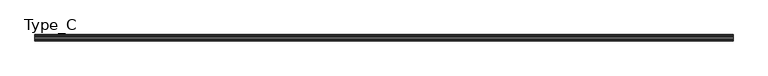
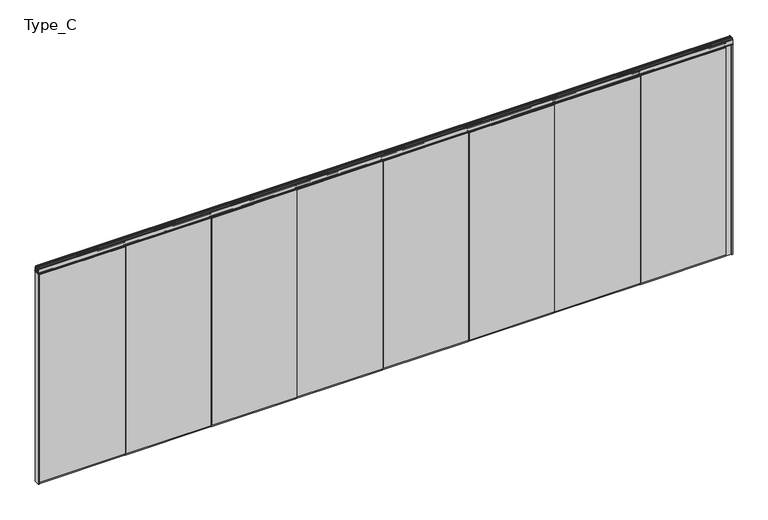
"""IFC4 building model written with IfcOpenShell, lengths in millimetres: proxy geometry, Planner Wall フラッシュパネル(NO Door) : Type_C."""

from ifc_helpers import new_model, si_unit, point, frame, frame_2d, origin, origin_with_axes, place, context, project, spatial, polyline, circle_curve, trimmed, segment, composite_curve, outline, extrude, source, transform, mapped, element, save


def type_c_7cec8b19(model_context):
    return source(origin(), model_context, "Body", "SweptSolid", [
        extrude(outline(polyline([(-2075.875, 25.0), (-3223.5, 25.0), (-3223.5, 35.0), (-2075.875, 35.0), (-2075.875, 25.0)])), frame((0.0, 0.0, 25.0), z_axis=(0.0, 0.0, 1.0), x_axis=(1.0, 0.0, 0.0)), (0.0, 0.0, 1.0), 2950.0),
        extrude(outline(polyline([(-2075.875, -35.0), (-3223.5, -35.0), (-3223.5, -25.0), (-2075.875, -25.0), (-2075.875, -35.0)])), frame((0.0, 0.0, 25.0), z_axis=(0.0, 0.0, 1.0), x_axis=(1.0, 0.0, 0.0)), (0.0, 0.0, 1.0), 2950.0),
        extrude(outline(polyline([(-3223.5, -25.0), (-3223.5, 25.0), (-2081.375, 25.0), (-2081.375, -25.0), (-3223.5, -25.0)])), origin_with_axes(), (0.0, 0.0, 1.0), 65.0),
        extrude(outline(composite_curve([segment(polyline([(23.5, 3050.1000003), (26.5, 3047.1000003), (26.5, 3032.6)]), True, "CONTINUOUS"), segment(trimmed(circle_curve(frame_2d((25.0, 3032.6)), 1.5), [point((26.5, 3032.6))], [point((25.0, 3031.1))], False, "CARTESIAN"), True, "CONTINUOUS"), segment(polyline([(25.0, 3031.1), (9.0, 3031.1), (9.0, 3019.1000003), (23.5, 3019.1000003), (26.5, 3016.1000003), (26.5, 3001.5)]), True, "CONTINUOUS"), segment(trimmed(circle_curve(frame_2d((25.0, 3001.5)), 1.5), [point((26.5, 3001.5))], [point((25.0, 3000.0))], False, "CARTESIAN"), True, "CONTINUOUS"), segment(polyline([(25.0, 3000.0), (7.5, 3000.0), (7.5, 2994.5), (25.0, 2994.5), (25.0, 2935.0), (-25.0, 2935.0), (-25.0, 2994.5), (-7.5, 2994.5), (-7.5, 3000.0), (-25.0, 3000.0)]), True, "CONTINUOUS"), segment(trimmed(circle_curve(frame_2d((-25.0, 3001.5)), 1.5), [point((-25.0, 3000.0))], [point((-26.5, 3001.5))], False, "CARTESIAN"), True, "CONTINUOUS"), segment(polyline([(-26.5, 3001.5), (-26.5, 3016.1000003), (-23.5, 3019.1000003), (-9.0, 3019.1000003), (-9.0, 3031.1), (-25.0, 3031.1)]), True, "CONTINUOUS"), segment(trimmed(circle_curve(frame_2d((-25.0, 3032.6)), 1.5), [point((-25.0, 3031.1))], [point((-26.5, 3032.6))], False, "CARTESIAN"), True, "CONTINUOUS"), segment(polyline([(-26.5, 3032.6), (-26.5, 3047.1000003), (-23.5, 3050.1000003), (23.5, 3050.1000003)]), True, "CONTINUOUS")], self_intersect=False)), frame((-3223.5, 0.0, 0.0), z_axis=(1.0, 0.0, 0.0), x_axis=(0.0, 1.0, 0.0)), (0.0, 0.0, 1.0), 1147.625),
        extrude(outline(polyline([(-3237.0, -25.0), (-3237.0, 25.0), (-3223.5, 25.0), (-3223.5, -25.0), (-3237.0, -25.0)])), frame((0.0, 0.0, 53.0), z_axis=(0.0, 0.0, 1.0), x_axis=(1.0, 0.0, 0.0)), (0.0, 0.0, 1.0), 2869.0),
        extrude(outline(polyline([(-920.25, 25.0), (-2067.875, 25.0), (-2067.875, 35.0), (-920.25, 35.0), (-920.25, 25.0)])), frame((0.0, 0.0, 25.0), z_axis=(0.0, 0.0, 1.0), x_axis=(1.0, 0.0, 0.0)), (0.0, 0.0, 1.0), 2950.0),
        extrude(outline(polyline([(-920.25, -35.0), (-2067.875, -35.0), (-2067.875, -25.0), (-920.25, -25.0), (-920.25, -35.0)])), frame((0.0, 0.0, 25.0), z_axis=(0.0, 0.0, 1.0), x_axis=(1.0, 0.0, 0.0)), (0.0, 0.0, 1.0), 2950.0),
        extrude(outline(polyline([(-2067.875, -25.0), (-2067.875, 25.0), (-925.75, 25.0), (-925.75, -25.0), (-2067.875, -25.0)])), origin_with_axes(), (0.0, 0.0, 1.0), 65.0),
        extrude(outline(composite_curve([segment(polyline([(23.5, 3050.1000003), (26.5, 3047.1000003), (26.5, 3032.6)]), True, "CONTINUOUS"), segment(trimmed(circle_curve(frame_2d((25.0, 3032.6)), 1.5), [point((26.5, 3032.6))], [point((25.0, 3031.1))], False, "CARTESIAN"), True, "CONTINUOUS"), segment(polyline([(25.0, 3031.1), (9.0, 3031.1), (9.0, 3019.1000003), (23.5, 3019.1000003), (26.5, 3016.1000003), (26.5, 3001.5)]), True, "CONTINUOUS"), segment(trimmed(circle_curve(frame_2d((25.0, 3001.5)), 1.5), [point((26.5, 3001.5))], [point((25.0, 3000.0))], False, "CARTESIAN"), True, "CONTINUOUS"), segment(polyline([(25.0, 3000.0), (7.5, 3000.0), (7.5, 2994.5), (25.0, 2994.5), (25.0, 2935.0), (-25.0, 2935.0), (-25.0, 2994.5), (-7.5, 2994.5), (-7.5, 3000.0), (-25.0, 3000.0)]), True, "CONTINUOUS"), segment(trimmed(circle_curve(frame_2d((-25.0, 3001.5)), 1.5), [point((-25.0, 3000.0))], [point((-26.5, 3001.5))], False, "CARTESIAN"), True, "CONTINUOUS"), segment(polyline([(-26.5, 3001.5), (-26.5, 3016.1000003), (-23.5, 3019.1000003), (-9.0, 3019.1000003), (-9.0, 3031.1), (-25.0, 3031.1)]), True, "CONTINUOUS"), segment(trimmed(circle_curve(frame_2d((-25.0, 3032.6)), 1.5), [point((-25.0, 3031.1))], [point((-26.5, 3032.6))], False, "CARTESIAN"), True, "CONTINUOUS"), segment(polyline([(-26.5, 3032.6), (-26.5, 3047.1000003), (-23.5, 3050.1000003), (23.5, 3050.1000003)]), True, "CONTINUOUS")], self_intersect=False)), frame((-2067.875, 0.0, 0.0), z_axis=(1.0, 0.0, 0.0), x_axis=(0.0, 1.0, 0.0)), (0.0, 0.0, 1.0), 1147.625),
        extrude(outline(polyline([(-2081.375, -25.0), (-2081.375, 25.0), (-2067.875, 25.0), (-2067.875, -25.0), (-2081.375, -25.0)])), frame((0.0, 0.0, 53.0), z_axis=(0.0, 0.0, 1.0), x_axis=(1.0, 0.0, 0.0)), (0.0, 0.0, 1.0), 2869.0),
        extrude(outline(polyline([(235.375, 25.0), (-912.25, 25.0), (-912.25, 35.0), (235.375, 35.0), (235.375, 25.0)])), frame((0.0, 0.0, 25.0), z_axis=(0.0, 0.0, 1.0), x_axis=(1.0, 0.0, 0.0)), (0.0, 0.0, 1.0), 2950.0),
        extrude(outline(polyline([(235.375, -35.0), (-912.25, -35.0), (-912.25, -25.0), (235.375, -25.0), (235.375, -35.0)])), frame((0.0, 0.0, 25.0), z_axis=(0.0, 0.0, 1.0), x_axis=(1.0, 0.0, 0.0)), (0.0, 0.0, 1.0), 2950.0),
        extrude(outline(polyline([(-912.25, -25.0), (-912.25, 25.0), (229.875, 25.0), (229.875, -25.0), (-912.25, -25.0)])), origin_with_axes(), (0.0, 0.0, 1.0), 65.0),
        extrude(outline(composite_curve([segment(polyline([(23.5, 3050.1000003), (26.5, 3047.1000003), (26.5, 3032.6)]), True, "CONTINUOUS"), segment(trimmed(circle_curve(frame_2d((25.0, 3032.6)), 1.5), [point((26.5, 3032.6))], [point((25.0, 3031.1))], False, "CARTESIAN"), True, "CONTINUOUS"), segment(polyline([(25.0, 3031.1), (9.0, 3031.1), (9.0, 3019.1000003), (23.5, 3019.1000003), (26.5, 3016.1000003), (26.5, 3001.5)]), True, "CONTINUOUS"), segment(trimmed(circle_curve(frame_2d((25.0, 3001.5)), 1.5), [point((26.5, 3001.5))], [point((25.0, 3000.0))], False, "CARTESIAN"), True, "CONTINUOUS"), segment(polyline([(25.0, 3000.0), (7.5, 3000.0), (7.5, 2994.5), (25.0, 2994.5), (25.0, 2935.0), (-25.0, 2935.0), (-25.0, 2994.5), (-7.5, 2994.5), (-7.5, 3000.0), (-25.0, 3000.0)]), True, "CONTINUOUS"), segment(trimmed(circle_curve(frame_2d((-25.0, 3001.5)), 1.5), [point((-25.0, 3000.0))], [point((-26.5, 3001.5))], False, "CARTESIAN"), True, "CONTINUOUS"), segment(polyline([(-26.5, 3001.5), (-26.5, 3016.1000003), (-23.5, 3019.1000003), (-9.0, 3019.1000003), (-9.0, 3031.1), (-25.0, 3031.1)]), True, "CONTINUOUS"), segment(trimmed(circle_curve(frame_2d((-25.0, 3032.6)), 1.5), [point((-25.0, 3031.1))], [point((-26.5, 3032.6))], False, "CARTESIAN"), True, "CONTINUOUS"), segment(polyline([(-26.5, 3032.6), (-26.5, 3047.1000003), (-23.5, 3050.1000003), (23.5, 3050.1000003)]), True, "CONTINUOUS")], self_intersect=False)), frame((-912.25, 0.0, 0.0), z_axis=(1.0, 0.0, 0.0), x_axis=(0.0, 1.0, 0.0)), (0.0, 0.0, 1.0), 1147.625),
        extrude(outline(polyline([(-925.75, -25.0), (-925.75, 25.0), (-912.25, 25.0), (-912.25, -25.0), (-925.75, -25.0)])), frame((0.0, 0.0, 53.0), z_axis=(0.0, 0.0, 1.0), x_axis=(1.0, 0.0, 0.0)), (0.0, 0.0, 1.0), 2869.0),
        extrude(outline(polyline([(1391.0, 25.0), (243.375, 25.0), (243.375, 35.0), (1391.0, 35.0), (1391.0, 25.0)])), frame((0.0, 0.0, 25.0), z_axis=(0.0, 0.0, 1.0), x_axis=(1.0, 0.0, 0.0)), (0.0, 0.0, 1.0), 2950.0),
        extrude(outline(polyline([(1391.0, -35.0), (243.375, -35.0), (243.375, -25.0), (1391.0, -25.0), (1391.0, -35.0)])), frame((0.0, 0.0, 25.0), z_axis=(0.0, 0.0, 1.0), x_axis=(1.0, 0.0, 0.0)), (0.0, 0.0, 1.0), 2950.0),
        extrude(outline(polyline([(243.375, -25.0), (243.375, 25.0), (1385.5, 25.0), (1385.5, -25.0), (243.375, -25.0)])), origin_with_axes(), (0.0, 0.0, 1.0), 65.0),
        extrude(outline(composite_curve([segment(polyline([(23.5, 3050.1000003), (26.5, 3047.1000003), (26.5, 3032.6)]), True, "CONTINUOUS"), segment(trimmed(circle_curve(frame_2d((25.0, 3032.6)), 1.5), [point((26.5, 3032.6))], [point((25.0, 3031.1))], False, "CARTESIAN"), True, "CONTINUOUS"), segment(polyline([(25.0, 3031.1), (9.0, 3031.1), (9.0, 3019.1000003), (23.5, 3019.1000003), (26.5, 3016.1000003), (26.5, 3001.5)]), True, "CONTINUOUS"), segment(trimmed(circle_curve(frame_2d((25.0, 3001.5)), 1.5), [point((26.5, 3001.5))], [point((25.0, 3000.0))], False, "CARTESIAN"), True, "CONTINUOUS"), segment(polyline([(25.0, 3000.0), (7.5, 3000.0), (7.5, 2994.5), (25.0, 2994.5), (25.0, 2935.0), (-25.0, 2935.0), (-25.0, 2994.5), (-7.5, 2994.5), (-7.5, 3000.0), (-25.0, 3000.0)]), True, "CONTINUOUS"), segment(trimmed(circle_curve(frame_2d((-25.0, 3001.5)), 1.5), [point((-25.0, 3000.0))], [point((-26.5, 3001.5))], False, "CARTESIAN"), True, "CONTINUOUS"), segment(polyline([(-26.5, 3001.5), (-26.5, 3016.1000003), (-23.5, 3019.1000003), (-9.0, 3019.1000003), (-9.0, 3031.1), (-25.0, 3031.1)]), True, "CONTINUOUS"), segment(trimmed(circle_curve(frame_2d((-25.0, 3032.6)), 1.5), [point((-25.0, 3031.1))], [point((-26.5, 3032.6))], False, "CARTESIAN"), True, "CONTINUOUS"), segment(polyline([(-26.5, 3032.6), (-26.5, 3047.1000003), (-23.5, 3050.1000003), (23.5, 3050.1000003)]), True, "CONTINUOUS")], self_intersect=False)), frame((243.375, 0.0, 0.0), z_axis=(1.0, 0.0, 0.0), x_axis=(0.0, 1.0, 0.0)), (0.0, 0.0, 1.0), 1147.625),
        extrude(outline(polyline([(229.875, -25.0), (229.875, 25.0), (243.375, 25.0), (243.375, -25.0), (229.875, -25.0)])), frame((0.0, 0.0, 53.0), z_axis=(0.0, 0.0, 1.0), x_axis=(1.0, 0.0, 0.0)), (0.0, 0.0, 1.0), 2869.0),
        extrude(outline(polyline([(2546.625, 25.0), (1399.0, 25.0), (1399.0, 35.0), (2546.625, 35.0), (2546.625, 25.0)])), frame((0.0, 0.0, 25.0), z_axis=(0.0, 0.0, 1.0), x_axis=(1.0, 0.0, 0.0)), (0.0, 0.0, 1.0), 2950.0),
        extrude(outline(polyline([(2546.625, -35.0), (1399.0, -35.0), (1399.0, -25.0), (2546.625, -25.0), (2546.625, -35.0)])), frame((0.0, 0.0, 25.0), z_axis=(0.0, 0.0, 1.0), x_axis=(1.0, 0.0, 0.0)), (0.0, 0.0, 1.0), 2950.0),
        extrude(outline(polyline([(1399.0, -25.0), (1399.0, 25.0), (2541.125, 25.0), (2541.125, -25.0), (1399.0, -25.0)])), origin_with_axes(), (0.0, 0.0, 1.0), 65.0),
        extrude(outline(composite_curve([segment(polyline([(23.5, 3050.1000003), (26.5, 3047.1000003), (26.5, 3032.6)]), True, "CONTINUOUS"), segment(trimmed(circle_curve(frame_2d((25.0, 3032.6)), 1.5), [point((26.5, 3032.6))], [point((25.0, 3031.1))], False, "CARTESIAN"), True, "CONTINUOUS"), segment(polyline([(25.0, 3031.1), (9.0, 3031.1), (9.0, 3019.1000003), (23.5, 3019.1000003), (26.5, 3016.1000003), (26.5, 3001.5)]), True, "CONTINUOUS"), segment(trimmed(circle_curve(frame_2d((25.0, 3001.5)), 1.5), [point((26.5, 3001.5))], [point((25.0, 3000.0))], False, "CARTESIAN"), True, "CONTINUOUS"), segment(polyline([(25.0, 3000.0), (7.5, 3000.0), (7.5, 2994.5), (25.0, 2994.5), (25.0, 2935.0), (-25.0, 2935.0), (-25.0, 2994.5), (-7.5, 2994.5), (-7.5, 3000.0), (-25.0, 3000.0)]), True, "CONTINUOUS"), segment(trimmed(circle_curve(frame_2d((-25.0, 3001.5)), 1.5), [point((-25.0, 3000.0))], [point((-26.5, 3001.5))], False, "CARTESIAN"), True, "CONTINUOUS"), segment(polyline([(-26.5, 3001.5), (-26.5, 3016.1000003), (-23.5, 3019.1000003), (-9.0, 3019.1000003), (-9.0, 3031.1), (-25.0, 3031.1)]), True, "CONTINUOUS"), segment(trimmed(circle_curve(frame_2d((-25.0, 3032.6)), 1.5), [point((-25.0, 3031.1))], [point((-26.5, 3032.6))], False, "CARTESIAN"), True, "CONTINUOUS"), segment(polyline([(-26.5, 3032.6), (-26.5, 3047.1000003), (-23.5, 3050.1000003), (23.5, 3050.1000003)]), True, "CONTINUOUS")], self_intersect=False)), frame((1399.0, 0.0, 0.0), z_axis=(1.0, 0.0, 0.0), x_axis=(0.0, 1.0, 0.0)), (0.0, 0.0, 1.0), 1147.625),
        extrude(outline(polyline([(1385.5, -25.0), (1385.5, 25.0), (1399.0, 25.0), (1399.0, -25.0), (1385.5, -25.0)])), frame((0.0, 0.0, 53.0), z_axis=(0.0, 0.0, 1.0), x_axis=(1.0, 0.0, 0.0)), (0.0, 0.0, 1.0), 2869.0),
        extrude(outline(polyline([(3702.25, 25.0), (2554.625, 25.0), (2554.625, 35.0), (3702.25, 35.0), (3702.25, 25.0)])), frame((0.0, 0.0, 25.0), z_axis=(0.0, 0.0, 1.0), x_axis=(1.0, 0.0, 0.0)), (0.0, 0.0, 1.0), 2950.0),
        extrude(outline(polyline([(3702.25, -35.0), (2554.625, -35.0), (2554.625, -25.0), (3702.25, -25.0), (3702.25, -35.0)])), frame((0.0, 0.0, 25.0), z_axis=(0.0, 0.0, 1.0), x_axis=(1.0, 0.0, 0.0)), (0.0, 0.0, 1.0), 2950.0),
        extrude(outline(polyline([(2554.625, -25.0), (2554.625, 25.0), (3696.75, 25.0), (3696.75, -25.0), (2554.625, -25.0)])), origin_with_axes(), (0.0, 0.0, 1.0), 65.0),
        extrude(outline(composite_curve([segment(polyline([(23.5, 3050.1000003), (26.5, 3047.1000003), (26.5, 3032.6)]), True, "CONTINUOUS"), segment(trimmed(circle_curve(frame_2d((25.0, 3032.6)), 1.5), [point((26.5, 3032.6))], [point((25.0, 3031.1))], False, "CARTESIAN"), True, "CONTINUOUS"), segment(polyline([(25.0, 3031.1), (9.0, 3031.1), (9.0, 3019.1000003), (23.5, 3019.1000003), (26.5, 3016.1000003), (26.5, 3001.5)]), True, "CONTINUOUS"), segment(trimmed(circle_curve(frame_2d((25.0, 3001.5)), 1.5), [point((26.5, 3001.5))], [point((25.0, 3000.0))], False, "CARTESIAN"), True, "CONTINUOUS"), segment(polyline([(25.0, 3000.0), (7.5, 3000.0), (7.5, 2994.5), (25.0, 2994.5), (25.0, 2935.0), (-25.0, 2935.0), (-25.0, 2994.5), (-7.5, 2994.5), (-7.5, 3000.0), (-25.0, 3000.0)]), True, "CONTINUOUS"), segment(trimmed(circle_curve(frame_2d((-25.0, 3001.5)), 1.5), [point((-25.0, 3000.0))], [point((-26.5, 3001.5))], False, "CARTESIAN"), True, "CONTINUOUS"), segment(polyline([(-26.5, 3001.5), (-26.5, 3016.1000003), (-23.5, 3019.1000003), (-9.0, 3019.1000003), (-9.0, 3031.1), (-25.0, 3031.1)]), True, "CONTINUOUS"), segment(trimmed(circle_curve(frame_2d((-25.0, 3032.6)), 1.5), [point((-25.0, 3031.1))], [point((-26.5, 3032.6))], False, "CARTESIAN"), True, "CONTINUOUS"), segment(polyline([(-26.5, 3032.6), (-26.5, 3047.1000003), (-23.5, 3050.1000003), (23.5, 3050.1000003)]), True, "CONTINUOUS")], self_intersect=False)), frame((2554.625, 0.0, 0.0), z_axis=(1.0, 0.0, 0.0), x_axis=(0.0, 1.0, 0.0)), (0.0, 0.0, 1.0), 1147.625),
        extrude(outline(polyline([(2541.125, -25.0), (2541.125, 25.0), (2554.625, 25.0), (2554.625, -25.0), (2541.125, -25.0)])), frame((0.0, 0.0, 53.0), z_axis=(0.0, 0.0, 1.0), x_axis=(1.0, 0.0, 0.0)), (0.0, 0.0, 1.0), 2869.0),
        extrude(outline(polyline([(4857.875, 25.0), (3710.25, 25.0), (3710.25, 35.0), (4857.875, 35.0), (4857.875, 25.0)])), frame((0.0, 0.0, 25.0), z_axis=(0.0, 0.0, 1.0), x_axis=(1.0, 0.0, 0.0)), (0.0, 0.0, 1.0), 2950.0),
        extrude(outline(polyline([(4857.875, -35.0), (3710.25, -35.0), (3710.25, -25.0), (4857.875, -25.0), (4857.875, -35.0)])), frame((0.0, 0.0, 25.0), z_axis=(0.0, 0.0, 1.0), x_axis=(1.0, 0.0, 0.0)), (0.0, 0.0, 1.0), 2950.0),
        extrude(outline(polyline([(3710.25, -25.0), (3710.25, 25.0), (4852.375, 25.0), (4852.375, -25.0), (3710.25, -25.0)])), origin_with_axes(), (0.0, 0.0, 1.0), 65.0),
        extrude(outline(composite_curve([segment(polyline([(23.5, 3050.1000003), (26.5, 3047.1000003), (26.5, 3032.6)]), True, "CONTINUOUS"), segment(trimmed(circle_curve(frame_2d((25.0, 3032.6)), 1.5), [point((26.5, 3032.6))], [point((25.0, 3031.1))], False, "CARTESIAN"), True, "CONTINUOUS"), segment(polyline([(25.0, 3031.1), (9.0, 3031.1), (9.0, 3019.1000003), (23.5, 3019.1000003), (26.5, 3016.1000003), (26.5, 3001.5)]), True, "CONTINUOUS"), segment(trimmed(circle_curve(frame_2d((25.0, 3001.5)), 1.5), [point((26.5, 3001.5))], [point((25.0, 3000.0))], False, "CARTESIAN"), True, "CONTINUOUS"), segment(polyline([(25.0, 3000.0), (7.5, 3000.0), (7.5, 2994.5), (25.0, 2994.5), (25.0, 2935.0), (-25.0, 2935.0), (-25.0, 2994.5), (-7.5, 2994.5), (-7.5, 3000.0), (-25.0, 3000.0)]), True, "CONTINUOUS"), segment(trimmed(circle_curve(frame_2d((-25.0, 3001.5)), 1.5), [point((-25.0, 3000.0))], [point((-26.5, 3001.5))], False, "CARTESIAN"), True, "CONTINUOUS"), segment(polyline([(-26.5, 3001.5), (-26.5, 3016.1000003), (-23.5, 3019.1000003), (-9.0, 3019.1000003), (-9.0, 3031.1), (-25.0, 3031.1)]), True, "CONTINUOUS"), segment(trimmed(circle_curve(frame_2d((-25.0, 3032.6)), 1.5), [point((-25.0, 3031.1))], [point((-26.5, 3032.6))], False, "CARTESIAN"), True, "CONTINUOUS"), segment(polyline([(-26.5, 3032.6), (-26.5, 3047.1000003), (-23.5, 3050.1000003), (23.5, 3050.1000003)]), True, "CONTINUOUS")], self_intersect=False)), frame((3710.25, 0.0, 0.0), z_axis=(1.0, 0.0, 0.0), x_axis=(0.0, 1.0, 0.0)), (0.0, 0.0, 1.0), 1147.625),
        extrude(outline(polyline([(3696.75, -25.0), (3696.75, 25.0), (3710.25, 25.0), (3710.25, -25.0), (3696.75, -25.0)])), frame((0.0, 0.0, 53.0), z_axis=(0.0, 0.0, 1.0), x_axis=(1.0, 0.0, 0.0)), (0.0, 0.0, 1.0), 2869.0),
        extrude(outline(polyline([(4865.875, -25.0), (4865.875, 25.0), (6008.0, 25.0), (6008.0, -25.0), (4865.875, -25.0)])), origin_with_axes(), (0.0, 0.0, 1.0), 65.0),
        extrude(outline(polyline([(6008.0, -19.5), (6008.0, 19.5), (6090.5, 19.5), (6090.5, 25.0), (6097.0, 25.0), (6097.0, -25.0), (6090.5, -25.0), (6090.5, -19.5), (6008.0, -19.5)])), origin_with_axes(), (0.0, 0.0, 1.0), 2994.0),
        extrude(outline(composite_curve([segment(polyline([(23.5, 3050.1000003), (26.5, 3047.1000003), (26.5, 3032.6)]), True, "CONTINUOUS"), segment(trimmed(circle_curve(frame_2d((25.0, 3032.6)), 1.5), [point((26.5, 3032.6))], [point((25.0, 3031.1))], False, "CARTESIAN"), True, "CONTINUOUS"), segment(polyline([(25.0, 3031.1), (9.0, 3031.1), (9.0, 3019.1000003), (23.5, 3019.1000003), (26.5, 3016.1000003), (26.5, 3001.5)]), True, "CONTINUOUS"), segment(trimmed(circle_curve(frame_2d((25.0, 3001.5)), 1.5), [point((26.5, 3001.5))], [point((25.0, 3000.0))], False, "CARTESIAN"), True, "CONTINUOUS"), segment(polyline([(25.0, 3000.0), (7.5, 3000.0), (7.5, 2994.5), (25.0, 2994.5), (25.0, 2935.0), (-25.0, 2935.0), (-25.0, 2994.5), (-7.5, 2994.5), (-7.5, 3000.0), (-25.0, 3000.0)]), True, "CONTINUOUS"), segment(trimmed(circle_curve(frame_2d((-25.0, 3001.5)), 1.5), [point((-25.0, 3000.0))], [point((-26.5, 3001.5))], False, "CARTESIAN"), True, "CONTINUOUS"), segment(polyline([(-26.5, 3001.5), (-26.5, 3016.1000003), (-23.5, 3019.1000003), (-9.0, 3019.1000003), (-9.0, 3031.1), (-25.0, 3031.1)]), True, "CONTINUOUS"), segment(trimmed(circle_curve(frame_2d((-25.0, 3032.6)), 1.5), [point((-25.0, 3031.1))], [point((-26.5, 3032.6))], False, "CARTESIAN"), True, "CONTINUOUS"), segment(polyline([(-26.5, 3032.6), (-26.5, 3047.1000003), (-23.5, 3050.1000003), (23.5, 3050.1000003)]), True, "CONTINUOUS")], self_intersect=False)), frame((4865.875, 0.0, 0.0), z_axis=(1.0, 0.0, 0.0), x_axis=(0.0, 1.0, 0.0)), (0.0, 0.0, 1.0), 1147.625),
        extrude(outline(polyline([(6013.5, 24.9), (4865.875, 24.9), (4865.875, 35.0), (6013.5, 35.0), (6013.5, 24.9)])), frame((0.0, 0.0, 25.0), z_axis=(0.0, 0.0, 1.0), x_axis=(1.0, 0.0, 0.0)), (0.0, 0.0, 1.0), 2950.0),
        extrude(outline(polyline([(6013.5, -35.0), (4865.875, -35.0), (4865.875, -24.9), (6013.5, -24.9), (6013.5, -35.0)])), frame((0.0, 0.0, 25.0), z_axis=(0.0, 0.0, 1.0), x_axis=(1.0, 0.0, 0.0)), (0.0, 0.0, 1.0), 2950.0),
        extrude(outline(polyline([(4852.375, -25.0), (4852.375, 25.0), (4865.875, 25.0), (4865.875, -25.0), (4852.375, -25.0)])), frame((0.0, 0.0, 78.0), z_axis=(0.0, 0.0, 1.0), x_axis=(1.0, 0.0, 0.0)), (0.0, 0.0, 1.0), 2897.0),
        extrude(outline(polyline([(-3245.0, -35.0), (-3245.0, 35.0), (-3231.5, 35.0), (-3231.5, 25.0), (-3237.0, 25.0), (-3237.0, -25.0), (-3231.5, -25.0), (-3231.5, -35.0), (-3245.0, -35.0)])), origin_with_axes(), (0.0, 0.0, 1.0), 2994.0),
        extrude(outline(composite_curve([segment(trimmed(circle_curve(frame_2d((-26.5, 3056.0)), 5.0), [point((-31.5, 3056.0))], [point((-26.1165175, 3060.9852724))], False, "CARTESIAN"), True, "CONTINUOUS"), segment(polyline([(-26.1165175, 3060.9852724), (-24.5, 3060.9852724), (-24.5, 3075.0)]), True, "CONTINUOUS"), segment(trimmed(circle_curve(frame_2d((-21.5, 3075.0)), 3.0), [point((-24.5, 3075.0))], [point((-21.5, 3078.0))], False, "CARTESIAN"), True, "CONTINUOUS"), segment(polyline([(-21.5, 3078.0), (-14.0, 3078.0)]), True, "CONTINUOUS"), segment(trimmed(circle_curve(frame_2d((-14.0, 3076.5)), 1.5), [point((-14.0, 3078.0))], [point((-12.5, 3076.5))], False, "CARTESIAN"), True, "CONTINUOUS"), segment(polyline([(-12.5, 3076.5), (-12.5, 3074.5)]), True, "CONTINUOUS"), segment(trimmed(circle_curve(frame_2d((-13.0, 3074.5)), 0.5), [point((-12.5, 3074.5))], [point((-13.0, 3074.0))], False, "CARTESIAN"), True, "CONTINUOUS"), segment(polyline([(-13.0, 3074.0), (-19.0, 3074.0)]), True, "CONTINUOUS"), segment(trimmed(circle_curve(frame_2d((-19.0, 3072.5)), 1.5), [point((-19.0, 3074.0))], [point((-20.5, 3072.5))], True, "CARTESIAN"), True, "CONTINUOUS"), segment(polyline([(-20.5, 3072.5), (-20.5, 3062.5)]), True, "CONTINUOUS"), segment(trimmed(circle_curve(frame_2d((-19.0, 3062.5)), 1.5), [point((-20.5, 3062.5))], [point((-19.0, 3061.0))], True, "CARTESIAN"), True, "CONTINUOUS"), segment(polyline([(-19.0, 3061.0), (19.0, 3061.0)]), True, "CONTINUOUS"), segment(trimmed(circle_curve(frame_2d((19.0, 3062.5)), 1.5), [point((19.0, 3061.0))], [point((20.5, 3062.5))], True, "CARTESIAN"), True, "CONTINUOUS"), segment(polyline([(20.5, 3062.5), (20.5, 3072.5)]), True, "CONTINUOUS"), segment(trimmed(circle_curve(frame_2d((19.0, 3072.5)), 1.5), [point((20.5, 3072.5))], [point((19.0, 3074.0))], True, "CARTESIAN"), True, "CONTINUOUS"), segment(polyline([(19.0, 3074.0), (13.0, 3074.0)]), True, "CONTINUOUS"), segment(trimmed(circle_curve(frame_2d((13.0, 3074.5)), 0.5), [point((13.0, 3074.0))], [point((12.5, 3074.5))], False, "CARTESIAN"), True, "CONTINUOUS"), segment(polyline([(12.5, 3074.5), (12.5, 3076.5)]), True, "CONTINUOUS"), segment(trimmed(circle_curve(frame_2d((14.0, 3076.5)), 1.5), [point((12.5, 3076.5))], [point((14.0, 3078.0))], False, "CARTESIAN"), True, "CONTINUOUS"), segment(polyline([(14.0, 3078.0), (21.5, 3078.0)]), True, "CONTINUOUS"), segment(trimmed(circle_curve(frame_2d((21.5, 3075.0)), 3.0), [point((21.5, 3078.0))], [point((24.5, 3075.0))], False, "CARTESIAN"), True, "CONTINUOUS"), segment(polyline([(24.5, 3075.0), (24.5, 3060.9852724), (26.1165175, 3060.9852724)]), True, "CONTINUOUS"), segment(trimmed(circle_curve(frame_2d((26.5, 3056.0)), 5.0), [point((26.1165175, 3060.9852724))], [point((31.5, 3056.0))], False, "CARTESIAN"), True, "CONTINUOUS"), segment(polyline([(31.5, 3056.0), (31.5, 3000.0), (42.5, 3000.0), (42.5, 2994.0), (11.0, 2994.0), (11.0, 3000.0), (26.9, 3000.0), (26.9, 3007.0786797), (27.9, 3009.3213203), (27.9, 3052.0)]), True, "CONTINUOUS"), segment(trimmed(circle_curve(frame_2d((22.9, 3052.0)), 5.0), [point((27.9, 3052.0))], [point((22.9, 3057.0))], True, "CARTESIAN"), True, "CONTINUOUS"), segment(polyline([(22.9, 3057.0), (-22.9, 3057.0)]), True, "CONTINUOUS"), segment(trimmed(circle_curve(frame_2d((-22.9, 3052.0)), 5.0), [point((-22.9, 3057.0))], [point((-27.9, 3052.0))], True, "CARTESIAN"), True, "CONTINUOUS"), segment(polyline([(-27.9, 3052.0), (-27.9, 3009.3213203), (-26.9, 3007.0786797), (-26.9, 3000.0), (-11.0, 3000.0), (-11.0, 2994.0), (-42.5, 2994.0), (-42.5, 3000.0), (-31.5, 3000.0), (-31.5, 3056.0)]), True, "CONTINUOUS")], self_intersect=False)), frame((-3245.0, 0.0, 0.0), z_axis=(1.0, 0.0, 0.0), x_axis=(0.0, 1.0, 0.0)), (0.0, 0.0, 1.0), 9350.0),
        extrude(outline(polyline([(6105.0, -35.0), (6091.5, -35.0), (6091.5, -25.0), (6097.0, -25.0), (6097.0, 25.0), (6091.5, 25.0), (6091.5, 35.0), (6105.0, 35.0), (6105.0, -35.0)])), origin_with_axes(), (0.0, 0.0, 1.0), 2994.0),
    ])


if __name__ == "__main__":
    model = new_model("IFC4")
    model_context = context("Model", 3, world=origin())
    ifc_project = project(units=[si_unit("LENGTHUNIT", "METRE", prefix="MILLI")], contexts=[model_context])
    site = spatial("IfcSite", under=ifc_project)
    building = spatial("IfcBuilding", under=site)
    placement = place(None, origin())
    type_c_shape = type_c_7cec8b19(model_context)
    element("IfcBuildingElementProxy", 1, Name="Planner Wall フラッシュパネル(NO Door) : Type_C", ObjectType="Planner Wall フラッシュパネル(NO Door) : Type_C", at=placement, inside=building, context=model_context, shape_type="MappedRepresentation", body=[
        mapped(type_c_shape, transform((0.0, 0.0, 0.0), x_axis=(1.0, 0.0, 0.0), y_axis=(0.0, 1.0, 0.0), z_axis=(0.0, 0.0, 1.0))),
    ])
    save(model, "model.ifc")
